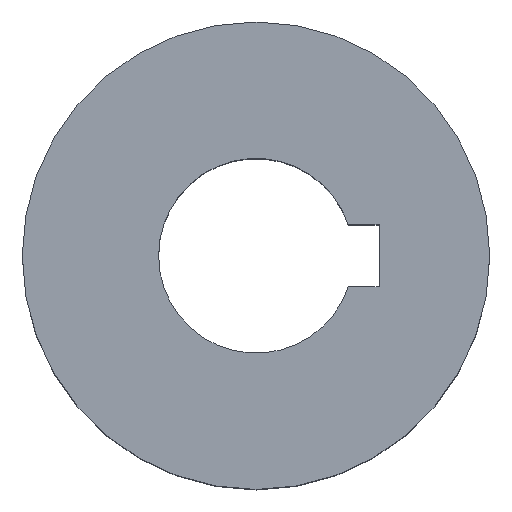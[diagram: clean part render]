
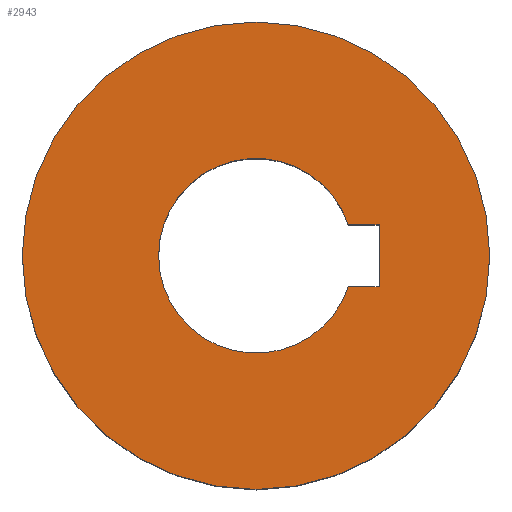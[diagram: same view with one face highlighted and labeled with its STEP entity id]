
A CAD part, top view. The second image highlights one B-rep face of the part: STEP entity #2943.
In plain terms, the highlighted planar face has unit normal (0, 0, 1).
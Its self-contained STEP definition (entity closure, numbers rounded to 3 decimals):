
#147 = CARTESIAN_POINT ( 'NONE',  ( 0., 0., 18.5 ) ) ;
#148 = DIRECTION ( 'NONE',  ( 0., 0., -1. ) ) ;
#149 = DIRECTION ( 'NONE',  ( -1., 0., 0. ) ) ;
#156 = CARTESIAN_POINT ( 'NONE',  ( 0., 0., 18.5 ) ) ;
#157 = DIRECTION ( 'NONE',  ( 0., 0., -1. ) ) ;
#158 = DIRECTION ( 'NONE',  ( -1., 0., 0. ) ) ;
#164 = DIRECTION ( 'NONE',  ( 0., 1., 0. ) ) ;
#170 = CARTESIAN_POINT ( 'NONE',  ( 15.8, -4., 18.5 ) ) ;
#175 = CARTESIAN_POINT ( 'NONE',  ( 0., 0., 18.5 ) ) ;
#176 = DIRECTION ( 'NONE',  ( 0., 0., -1. ) ) ;
#177 = DIRECTION ( 'NONE',  ( -1., 0., 0. ) ) ;
#178 = CARTESIAN_POINT ( 'NONE',  ( 15.8, -4., 18.5 ) ) ;
#179 = DIRECTION ( 'NONE',  ( -1., 0., 0. ) ) ;
#180 = CARTESIAN_POINT ( 'NONE',  ( 11.843, 4., 18.5 ) ) ;
#182 = DIRECTION ( 'NONE',  ( 1., 0., 0. ) ) ;
#188 = CARTESIAN_POINT ( 'NONE',  ( 15.8, -4., 18.5 ) ) ;
#192 = CARTESIAN_POINT ( 'NONE',  ( 11.843, 4., 18.5 ) ) ;
#272 = EDGE_LOOP ( 'NONE', ( #369, #329 ) ) ;
#280 = VERTEX_POINT ( 'NONE', #3530 ) ;
#297 = ORIENTED_EDGE ( 'NONE', *, *, #5602, .F. ) ;
#329 = ORIENTED_EDGE ( 'NONE', *, *, #5601, .F. ) ;
#369 = ORIENTED_EDGE ( 'NONE', *, *, #5498, .F. ) ;
#395 = ORIENTED_EDGE ( 'NONE', *, *, #5603, .T. ) ;
#695 = ORIENTED_EDGE ( 'NONE', *, *, #5604, .T. ) ;
#697 = ORIENTED_EDGE ( 'NONE', *, *, #5590, .T. ) ;
#698 = ORIENTED_EDGE ( 'NONE', *, *, #5594, .T. ) ;
#1301 = CARTESIAN_POINT ( 'NONE',  ( -12.5, 0., 18.5 ) ) ;
#1305 = CARTESIAN_POINT ( 'NONE',  ( 11.843, -4., 18.5 ) ) ;
#1313 = CARTESIAN_POINT ( 'NONE',  ( 30., 0., 18.5 ) ) ;
#2001 = FACE_OUTER_BOUND ( 'NONE', #272, .T. ) ;
#2275 = EDGE_LOOP ( 'NONE', ( #297, #395, #698, #697, #695 ) ) ;
#2324 = AXIS2_PLACEMENT_3D ( 'NONE', #2455, #2460, #2461 ) ;
#2455 = CARTESIAN_POINT ( 'NONE',  ( 0., 0., 18.5 ) ) ;
#2458 = PLANE ( 'NONE',  #2324 ) ;
#2460 = DIRECTION ( 'NONE',  ( 0., 0., 1. ) ) ;
#2461 = DIRECTION ( 'NONE',  ( -1., 0., 0. ) ) ;
#2943 = ADVANCED_FACE ( 'NONE', ( #2001, #3914 ), #2458, .T. ) ;
#3530 = CARTESIAN_POINT ( 'NONE',  ( -30., 0., 18.5 ) ) ;
#3732 = CARTESIAN_POINT ( 'NONE',  ( 0., 0., 18.5 ) ) ;
#3733 = DIRECTION ( 'NONE',  ( 0., 0., -1. ) ) ;
#3734 = DIRECTION ( 'NONE',  ( -1., 0., 0. ) ) ;
#3914 = FACE_BOUND ( 'NONE', #2275, .T. ) ;
#4206 = AXIS2_PLACEMENT_3D ( 'NONE', #3732, #3733, #3734 ) ;
#4247 = AXIS2_PLACEMENT_3D ( 'NONE', #147, #148, #149 ) ;
#4249 = AXIS2_PLACEMENT_3D ( 'NONE', #156, #157, #158 ) ;
#4252 = AXIS2_PLACEMENT_3D ( 'NONE', #175, #176, #177 ) ;
#4681 = CIRCLE ( 'NONE', #4206, 30. ) ;
#4843 = CIRCLE ( 'NONE', #4247, 12.5 ) ;
#4849 = CIRCLE ( 'NONE', #4249, 12.5 ) ;
#4859 = CIRCLE ( 'NONE', #4252, 30. ) ;
#4861 = LINE ( 'NONE', #170, #4863 ) ;
#4862 = LINE ( 'NONE', #178, #4865 ) ;
#4863 = VECTOR ( 'NONE', #164, 1000. ) ;
#4864 = LINE ( 'NONE', #180, #4866 ) ;
#4865 = VECTOR ( 'NONE', #179, 1000. ) ;
#4866 = VECTOR ( 'NONE', #182, 1000. ) ;
#5001 = CARTESIAN_POINT ( 'NONE',  ( 15.8, 4., 18.5 ) ) ;
#5267 = VERTEX_POINT ( 'NONE', #5001 ) ;
#5296 = VERTEX_POINT ( 'NONE', #1301 ) ;
#5300 = VERTEX_POINT ( 'NONE', #1305 ) ;
#5314 = VERTEX_POINT ( 'NONE', #1313 ) ;
#5498 = EDGE_CURVE ( 'NONE', #280, #5314, #4681, .T. ) ;
#5590 = EDGE_CURVE ( 'NONE', #5296, #5823, #4843, .T. ) ;
#5594 = EDGE_CURVE ( 'NONE', #5300, #5296, #4849, .T. ) ;
#5601 = EDGE_CURVE ( 'NONE', #5314, #280, #4859, .T. ) ;
#5602 = EDGE_CURVE ( 'NONE', #5819, #5267, #4861, .T. ) ;
#5603 = EDGE_CURVE ( 'NONE', #5819, #5300, #4862, .T. ) ;
#5604 = EDGE_CURVE ( 'NONE', #5823, #5267, #4864, .T. ) ;
#5819 = VERTEX_POINT ( 'NONE', #188 ) ;
#5823 = VERTEX_POINT ( 'NONE', #192 ) ;
